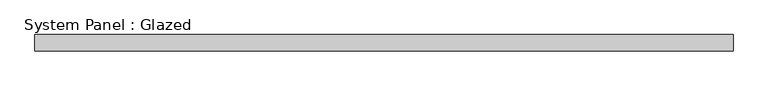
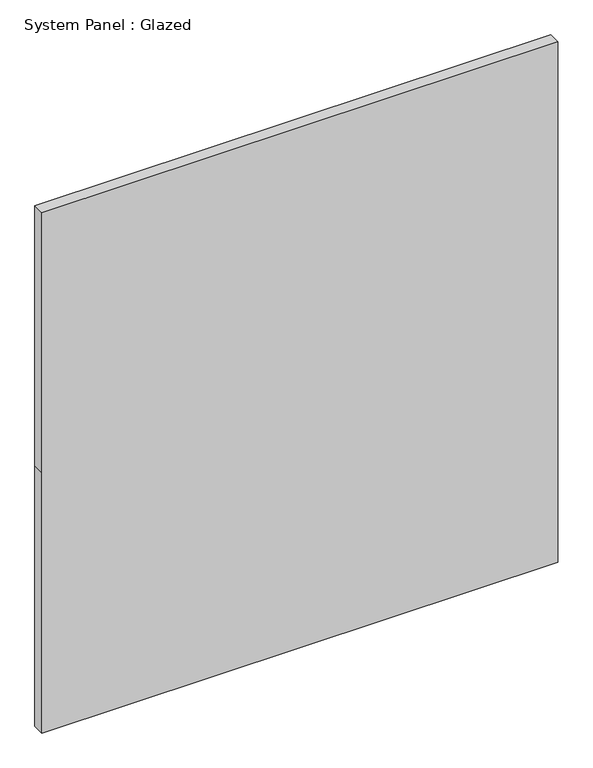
"""IFC4 building model written with IfcOpenShell, lengths in millimetres: plate geometry, System Panel : Glazed."""

from ifc_helpers import new_model, si_unit, frame, origin, place, context, project, spatial, polyline, outline, extrude, source, transform, mapped, element, save


def system_panel_glazed_9400200b(model_context):
    return source(origin(), model_context, "Body", "SweptSolid", [
        extrude(outline(polyline([(0.0, -541.655), (0.0, 541.655), (577.85, 541.655), (1155.7, 541.655), (1155.7, -541.655), (577.85, -541.655), (0.0, -541.655)])), frame((0.0, -44.45, 0.0), z_axis=(0.0, 1.0, 0.0), x_axis=(0.0, 0.0, 1.0)), (0.0, 0.0, 1.0), 25.4),
    ])


if __name__ == "__main__":
    model = new_model("IFC4")
    model_context = context("Model", 3, world=origin())
    ifc_project = project(units=[si_unit("LENGTHUNIT", "METRE", prefix="MILLI")], contexts=[model_context])
    site = spatial("IfcSite", under=ifc_project)
    building = spatial("IfcBuilding", under=site)
    placement = place(None, origin())
    system_panel_glazed_shape = system_panel_glazed_9400200b(model_context)
    element("IfcPlate", 1, ObjectType="System Panel : Glazed", at=placement, inside=building, context=model_context, shape_type="MappedRepresentation", body=[
        mapped(system_panel_glazed_shape, transform((0.0, 0.0, 0.0), x_axis=(1.0, 0.0, 0.0), y_axis=(0.0, 1.0, 0.0), z_axis=(0.0, 0.0, 1.0))),
    ])
    save(model, "model.ifc")
